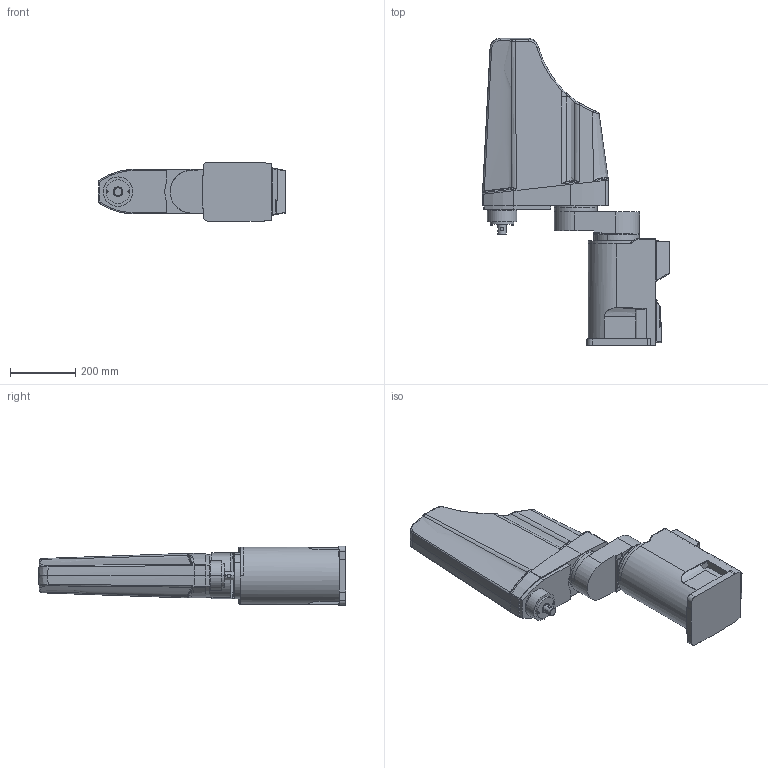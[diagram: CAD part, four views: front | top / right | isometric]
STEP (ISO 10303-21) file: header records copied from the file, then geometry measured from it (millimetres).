
FILE_DESCRIPTION((''),'2;1');
FILE_NAME('RH-6FH3534M-3D-ASSY_ASM_ASM','2012-04-25T',('AL99964'),(''),'PRO/ENGINEER BY PARAMETRIC TECHNOLOGY CORPORATION, 2010160','PRO/ENGINEER BY PARAMETRIC TECHNOLOGY CORPORATION, 2010160','');
FILE_SCHEMA(('CONFIG_CONTROL_DESIGN'));
Length unit declared in the file: millimetre
Products named in the file (6): RH-3-6FH_BASE_24; RH-3-6FH_NO1ARM_35_8; RH-6FH_NO2ARM_340; RH-6FH_SHAFT_3; RH-6FH_JABARA_MIST_340; RH-6FH3534M-3D-ASSY_ASM_ASM
Assembly tree (5 placements, depth 2):
  RH-6FH3534M-3D-ASSY_ASM_ASM
    RH-3-6FH_BASE_24
    RH-3-6FH_NO1ARM_35_8
    RH-6FH_NO2ARM_340
    RH-6FH_SHAFT_3
    RH-6FH_JABARA_MIST_340
Bounding box: 572 x 938 x 182 mm (x, y, z)
Volume: 30532000.7 mm3; surface area: 1107468.4 mm2
Topology: 5 solids, 5 shells, 506 faces, 1240 edges, 762 vertices
Faces by surface type: cylinder 170, bspline 143, plane 137, torus 24, cone 13, sphere 13, extrusion 6
Entity records: 29728 total; most frequent: CARTESIAN_POINT 18829, ORIENTED_EDGE 2460, DIRECTION 1940, EDGE_CURVE 1230, VERTEX_POINT 762, AXIS2_PLACEMENT_3D 753, EDGE_LOOP 538, FACE_OUTER_BOUND 506
